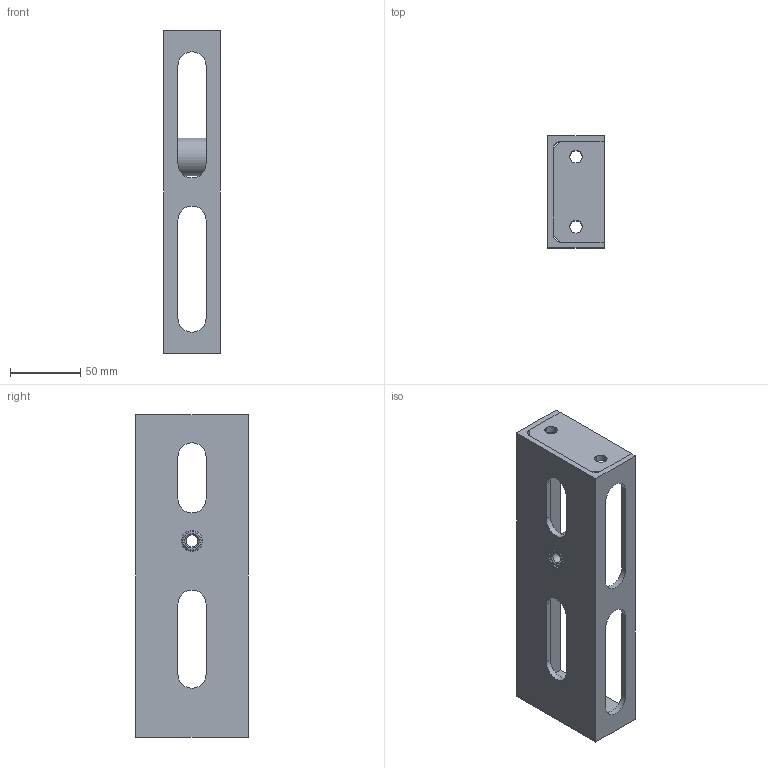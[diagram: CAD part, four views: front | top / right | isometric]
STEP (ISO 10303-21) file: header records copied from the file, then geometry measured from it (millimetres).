
FILE_DESCRIPTION (( 'STEP AP214' ), '1' );
FILE_NAME ('ÂØÀÅ.301722.002 Ïåðåìû÷êà.STEP', '2024-04-17T12:59:44', ( '' ), ( '' ), 'SwSTEP 2.0', 'SolidWorks 2019', '' );
FILE_SCHEMA (( 'AUTOMOTIVE_DESIGN' ));
Length unit declared in the file: millimetre
Products named in the file (4): 贅斃.746212.009 盷謥檞癰趌230; ÂØÀÅ.301722.002 Ïåðåìû÷êà; 贅斃.713361.002 鎗鵻罻_-01; ÂØÀÅ.741124.122 Ïëàñòèíà_80å40
Assembly tree (4 placements, depth 2):
  ÂØÀÅ.301722.002 Ïåðåìû÷êà
    贅斃.746212.009 盷謥檞癰趌230
    ÂØÀÅ.741124.122 Ïëàñòèíà_80å40  x2
    贅斃.713361.002 鎗鵻罻_-01
Bounding box: 40 x 80 x 230 mm (x, y, z)
Volume: 146045.7 mm3; surface area: 75169.7 mm2
Topology: 4 solids, 4 shells, 85 faces, 220 edges, 144 vertices
Faces by surface type: plane 41, cylinder 36, cone 8
Entity records: 2476 total; most frequent: DIRECTION 422, CARTESIAN_POINT 394, ORIENTED_EDGE 380, EDGE_CURVE 190, AXIS2_PLACEMENT_3D 152, VERTEX_POINT 124, VECTOR 118, LINE 118
